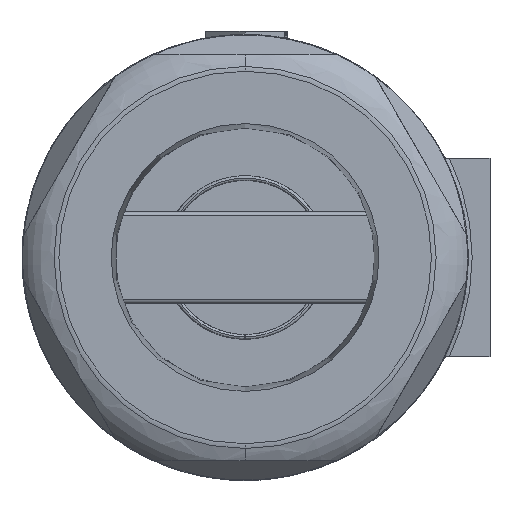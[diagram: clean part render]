
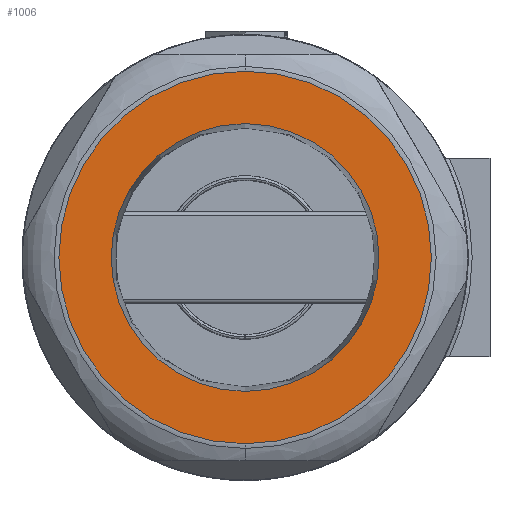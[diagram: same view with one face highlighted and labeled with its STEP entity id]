
A CAD part, left-side view. The second image highlights one B-rep face of the part: STEP entity #1006.
In plain terms, the highlighted planar face has unit normal (-1, 0, 0).
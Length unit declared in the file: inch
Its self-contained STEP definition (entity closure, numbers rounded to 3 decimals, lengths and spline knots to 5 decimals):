
#474 = DIRECTION ( 'NONE',  ( -1., 0., 0. ) ) ;
#553 = DIRECTION ( 'NONE',  ( 0., 0., 1. ) ) ;
#943 = VERTEX_POINT ( 'NONE', #11407 ) ;
#1006 = ADVANCED_FACE ( 'NONE', ( #4773, #9508 ), #2310, .T. ) ;
#1070 = AXIS2_PLACEMENT_3D ( 'NONE', #7066, #10804, #553 ) ;
#1228 = CARTESIAN_POINT ( 'NONE',  ( -1.07, 0., 0.46964 ) ) ;
#1255 = AXIS2_PLACEMENT_3D ( 'NONE', #8309, #12056, #9166 ) ;
#1791 = DIRECTION ( 'NONE',  ( -1., 0., 0. ) ) ;
#1926 = DIRECTION ( 'NONE',  ( -1., 0., 0. ) ) ;
#2310 = PLANE ( 'NONE',  #11699 ) ;
#2789 = DIRECTION ( 'NONE',  ( 0., 0., 1. ) ) ;
#3243 = DIRECTION ( 'NONE',  ( 0., 0., 1. ) ) ;
#4400 = EDGE_LOOP ( 'NONE', ( #12068, #7292 ) ) ;
#4433 = EDGE_CURVE ( 'NONE', #4955, #11812, #10372, .T. ) ;
#4773 = FACE_BOUND ( 'NONE', #4400, .T. ) ;
#4955 = VERTEX_POINT ( 'NONE', #7613 ) ;
#5126 = AXIS2_PLACEMENT_3D ( 'NONE', #6578, #1791, #6392 ) ;
#5173 = ORIENTED_EDGE ( 'NONE', *, *, #12159, .T. ) ;
#5961 = ORIENTED_EDGE ( 'NONE', *, *, #11846, .T. ) ;
#6058 = CARTESIAN_POINT ( 'NONE',  ( -1.07, -0.25, 0. ) ) ;
#6075 = EDGE_CURVE ( 'NONE', #11812, #4955, #9836, .T. ) ;
#6280 = EDGE_LOOP ( 'NONE', ( #5961, #5173 ) ) ;
#6346 = VERTEX_POINT ( 'NONE', #1228 ) ;
#6392 = DIRECTION ( 'NONE',  ( 0., 0., 1. ) ) ;
#6578 = CARTESIAN_POINT ( 'NONE',  ( -1.07, 0., 0. ) ) ;
#7066 = CARTESIAN_POINT ( 'NONE',  ( -1.07, 0., 0. ) ) ;
#7292 = ORIENTED_EDGE ( 'NONE', *, *, #6075, .F. ) ;
#7506 = CARTESIAN_POINT ( 'NONE',  ( -1.07, 0., -0.3376 ) ) ;
#7613 = CARTESIAN_POINT ( 'NONE',  ( -1.07, 0., 0.3376 ) ) ;
#7920 = CIRCLE ( 'NONE', #1255, 0.46964 ) ;
#8309 = CARTESIAN_POINT ( 'NONE',  ( -1.07, 0., 0. ) ) ;
#8712 = CIRCLE ( 'NONE', #1070, 0.46964 ) ;
#9166 = DIRECTION ( 'NONE',  ( 0., 0., 1. ) ) ;
#9508 = FACE_OUTER_BOUND ( 'NONE', #6280, .T. ) ;
#9836 = CIRCLE ( 'NONE', #5126, 0.3376 ) ;
#10173 = AXIS2_PLACEMENT_3D ( 'NONE', #12063, #1926, #2789 ) ;
#10372 = CIRCLE ( 'NONE', #10173, 0.3376 ) ;
#10804 = DIRECTION ( 'NONE',  ( -1., 0., 0. ) ) ;
#11407 = CARTESIAN_POINT ( 'NONE',  ( -1.07, 0., -0.46964 ) ) ;
#11699 = AXIS2_PLACEMENT_3D ( 'NONE', #6058, #474, #3243 ) ;
#11812 = VERTEX_POINT ( 'NONE', #7506 ) ;
#11846 = EDGE_CURVE ( 'NONE', #6346, #943, #7920, .T. ) ;
#12056 = DIRECTION ( 'NONE',  ( -1., 0., 0. ) ) ;
#12063 = CARTESIAN_POINT ( 'NONE',  ( -1.07, 0., 0. ) ) ;
#12068 = ORIENTED_EDGE ( 'NONE', *, *, #4433, .F. ) ;
#12159 = EDGE_CURVE ( 'NONE', #943, #6346, #8712, .T. ) ;
